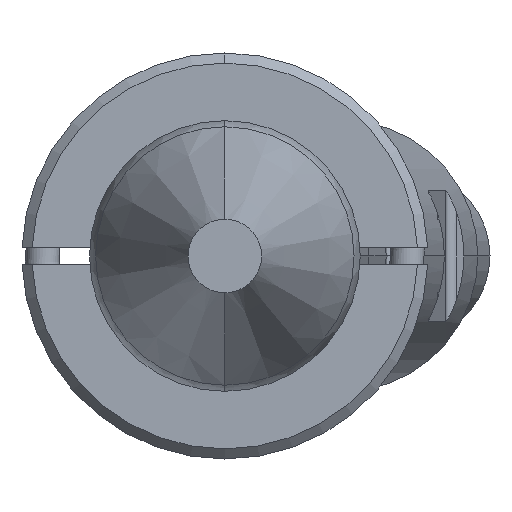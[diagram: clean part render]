
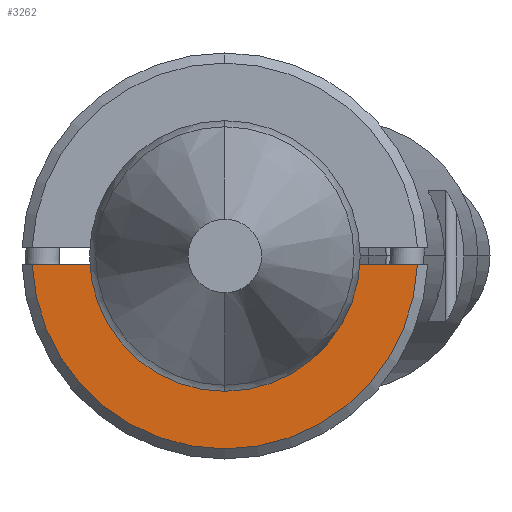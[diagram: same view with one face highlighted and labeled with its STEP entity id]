
A CAD part, front view. The second image highlights one B-rep face of the part: STEP entity #3262.
In plain terms, the highlighted planar face has unit normal (0, -1, 0).
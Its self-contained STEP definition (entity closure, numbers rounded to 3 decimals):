
#333 = EDGE_CURVE ( 'NONE', #1089, #1572, #2795, .T. ) ;
#353 = ORIENTED_EDGE ( 'NONE', *, *, #333, .F. ) ;
#580 = CARTESIAN_POINT ( 'NONE',  ( 0., -6., 0. ) ) ;
#589 = CIRCLE ( 'NONE', #2950, 3.2 ) ;
#608 = CARTESIAN_POINT ( 'NONE',  ( 5.695, -6., -0.25 ) ) ;
#678 = DIRECTION ( 'NONE',  ( 1., 0., 0. ) ) ;
#909 = CARTESIAN_POINT ( 'NONE',  ( -6., -6., 0. ) ) ;
#985 = AXIS2_PLACEMENT_3D ( 'NONE', #2699, #3973, #2809 ) ;
#1089 = VERTEX_POINT ( 'NONE', #1161 ) ;
#1161 = CARTESIAN_POINT ( 'NONE',  ( 3.19, -6., -0.25 ) ) ;
#1163 = DIRECTION ( 'NONE',  ( 0., -1., 0. ) ) ;
#1291 = VERTEX_POINT ( 'NONE', #1663 ) ;
#1348 = DIRECTION ( 'NONE',  ( 0., 0., -1. ) ) ;
#1360 = DIRECTION ( 'NONE',  ( 0., 1., 0. ) ) ;
#1427 = VERTEX_POINT ( 'NONE', #1743 ) ;
#1492 = DIRECTION ( 'NONE',  ( 0., 0., -1. ) ) ;
#1507 = DIRECTION ( 'NONE',  ( 1., 0., 0. ) ) ;
#1542 = EDGE_LOOP ( 'NONE', ( #3544, #3674, #353, #2766, #2528 ) ) ;
#1570 = CARTESIAN_POINT ( 'NONE',  ( -6., -6., -0.25 ) ) ;
#1572 = VERTEX_POINT ( 'NONE', #608 ) ;
#1573 = DIRECTION ( 'NONE',  ( 0., 0., -1. ) ) ;
#1663 = CARTESIAN_POINT ( 'NONE',  ( -5.695, -6., -0.25 ) ) ;
#1711 = CARTESIAN_POINT ( 'NONE',  ( -3.19, -6., -0.25 ) ) ;
#1743 = CARTESIAN_POINT ( 'NONE',  ( 0., -6., -3.2 ) ) ;
#1847 = AXIS2_PLACEMENT_3D ( 'NONE', #3508, #1360, #1348 ) ;
#1914 = CIRCLE ( 'NONE', #1847, 3.2 ) ;
#1986 = EDGE_CURVE ( 'NONE', #1089, #1427, #589, .T. ) ;
#2158 = EDGE_CURVE ( 'NONE', #1291, #1572, #3286, .T. ) ;
#2335 = EDGE_CURVE ( 'NONE', #1291, #3055, #3503, .T. ) ;
#2510 = EDGE_CURVE ( 'NONE', #1427, #3055, #1914, .T. ) ;
#2528 = ORIENTED_EDGE ( 'NONE', *, *, #2510, .T. ) ;
#2699 = CARTESIAN_POINT ( 'NONE',  ( 0., -6., 0. ) ) ;
#2707 = DIRECTION ( 'NONE',  ( 0., 1., 0. ) ) ;
#2766 = ORIENTED_EDGE ( 'NONE', *, *, #1986, .T. ) ;
#2795 = LINE ( 'NONE', #1570, #3963 ) ;
#2809 = DIRECTION ( 'NONE',  ( 0., 0., -1. ) ) ;
#2950 = AXIS2_PLACEMENT_3D ( 'NONE', #580, #2707, #1492 ) ;
#3055 = VERTEX_POINT ( 'NONE', #1711 ) ;
#3262 = ADVANCED_FACE ( 'NONE', ( #3739 ), #3993, .T. ) ;
#3264 = CARTESIAN_POINT ( 'NONE',  ( -6., -6., -0.25 ) ) ;
#3286 = CIRCLE ( 'NONE', #985, 5.7 ) ;
#3503 = LINE ( 'NONE', #3264, #3843 ) ;
#3508 = CARTESIAN_POINT ( 'NONE',  ( 0., -6., 0. ) ) ;
#3544 = ORIENTED_EDGE ( 'NONE', *, *, #2335, .F. ) ;
#3674 = ORIENTED_EDGE ( 'NONE', *, *, #2158, .T. ) ;
#3739 = FACE_OUTER_BOUND ( 'NONE', #1542, .T. ) ;
#3843 = VECTOR ( 'NONE', #678, 1000. ) ;
#3850 = AXIS2_PLACEMENT_3D ( 'NONE', #909, #1163, #1573 ) ;
#3963 = VECTOR ( 'NONE', #1507, 1000. ) ;
#3973 = DIRECTION ( 'NONE',  ( 0., -1., 0. ) ) ;
#3993 = PLANE ( 'NONE',  #3850 ) ;
